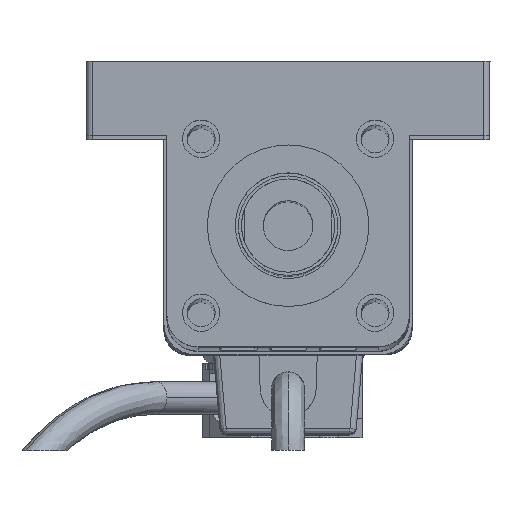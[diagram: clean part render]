
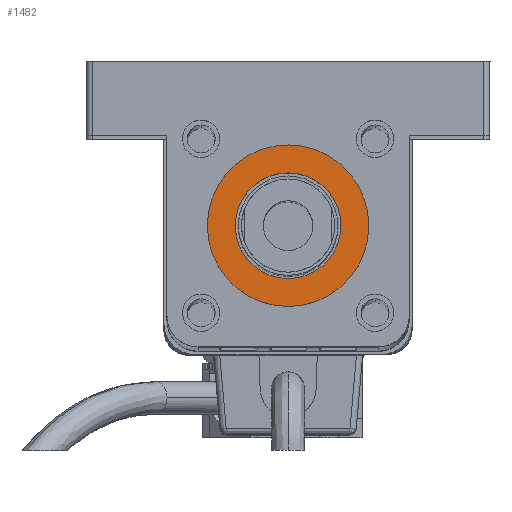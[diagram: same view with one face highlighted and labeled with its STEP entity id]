
A CAD part, top view. The second image highlights one B-rep face of the part: STEP entity #1482.
In plain terms, the highlighted planar face has unit normal (0, 0, 1) as drawn and (0, 0, -1) by its records, which use the part's own axes.
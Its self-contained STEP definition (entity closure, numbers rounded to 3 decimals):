
#1331 = DIRECTION ( 'NONE',  ( -1., 0., 0. ) ) ;
#1482 = ADVANCED_FACE ( 'NONE', ( #29034, #16345 ), #17748, .T. ) ;
#1683 = AXIS2_PLACEMENT_3D ( 'NONE', #14579, #12505, #14868 ) ;
#2491 = EDGE_LOOP ( 'NONE', ( #10813, #11999 ) ) ;
#5698 = CARTESIAN_POINT ( 'NONE',  ( 32.5, -19.5, -3. ) ) ;
#6069 = CARTESIAN_POINT ( 'NONE',  ( 19.5, -19.5, -3. ) ) ;
#6113 = VERTEX_POINT ( 'NONE', #14510 ) ;
#6602 = CARTESIAN_POINT ( 'NONE',  ( 19.5, -19.5, -3. ) ) ;
#6707 = CIRCLE ( 'NONE', #24261, 8.5 ) ;
#8201 = EDGE_CURVE ( 'NONE', #22949, #24523, #26014, .T. ) ;
#8769 = CARTESIAN_POINT ( 'NONE',  ( 19.5, -19.5, -3. ) ) ;
#8841 = DIRECTION ( 'NONE',  ( -1., 0., 0. ) ) ;
#9009 = AXIS2_PLACEMENT_3D ( 'NONE', #16872, #17063, #1331 ) ;
#10813 = ORIENTED_EDGE ( 'NONE', *, *, #13430, .F. ) ;
#11999 = ORIENTED_EDGE ( 'NONE', *, *, #26824, .F. ) ;
#12027 = CARTESIAN_POINT ( 'NONE',  ( 6.5, -19.5, -3. ) ) ;
#12505 = DIRECTION ( 'NONE',  ( 0., 0., -1. ) ) ;
#13430 = EDGE_CURVE ( 'NONE', #13501, #6113, #6707, .T. ) ;
#13501 = VERTEX_POINT ( 'NONE', #27564 ) ;
#14510 = CARTESIAN_POINT ( 'NONE',  ( 28., -19.5, -3. ) ) ;
#14579 = CARTESIAN_POINT ( 'NONE',  ( 19.5, -19.5, -3. ) ) ;
#14868 = DIRECTION ( 'NONE',  ( -1., 0., 0. ) ) ;
#16345 = FACE_OUTER_BOUND ( 'NONE', #16588, .T. ) ;
#16588 = EDGE_LOOP ( 'NONE', ( #20581, #18342 ) ) ;
#16872 = CARTESIAN_POINT ( 'NONE',  ( 19.5, -19.5, -3. ) ) ;
#17063 = DIRECTION ( 'NONE',  ( 0., 0., -1. ) ) ;
#17748 = PLANE ( 'NONE',  #20433 ) ;
#18342 = ORIENTED_EDGE ( 'NONE', *, *, #19859, .T. ) ;
#19859 = EDGE_CURVE ( 'NONE', #24523, #22949, #21663, .T. ) ;
#19923 = DIRECTION ( 'NONE',  ( 0., 0., -1. ) ) ;
#20090 = AXIS2_PLACEMENT_3D ( 'NONE', #6069, #28149, #21649 ) ;
#20433 = AXIS2_PLACEMENT_3D ( 'NONE', #8769, #19923, #28882 ) ;
#20581 = ORIENTED_EDGE ( 'NONE', *, *, #8201, .T. ) ;
#21649 = DIRECTION ( 'NONE',  ( -1., 0., 0. ) ) ;
#21663 = CIRCLE ( 'NONE', #9009, 13. ) ;
#22949 = VERTEX_POINT ( 'NONE', #5698 ) ;
#24261 = AXIS2_PLACEMENT_3D ( 'NONE', #6602, #24823, #8841 ) ;
#24523 = VERTEX_POINT ( 'NONE', #12027 ) ;
#24823 = DIRECTION ( 'NONE',  ( 0., 0., -1. ) ) ;
#26014 = CIRCLE ( 'NONE', #1683, 13. ) ;
#26824 = EDGE_CURVE ( 'NONE', #6113, #13501, #28719, .T. ) ;
#27564 = CARTESIAN_POINT ( 'NONE',  ( 11., -19.5, -3. ) ) ;
#28149 = DIRECTION ( 'NONE',  ( 0., 0., -1. ) ) ;
#28719 = CIRCLE ( 'NONE', #20090, 8.5 ) ;
#28882 = DIRECTION ( 'NONE',  ( -1., 0., 0. ) ) ;
#29034 = FACE_BOUND ( 'NONE', #2491, .T. ) ;
